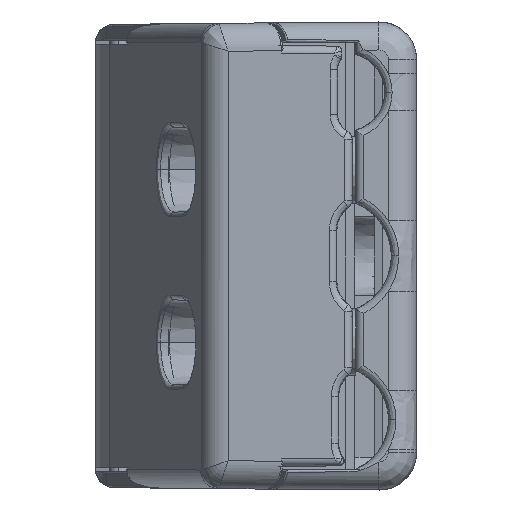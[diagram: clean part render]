
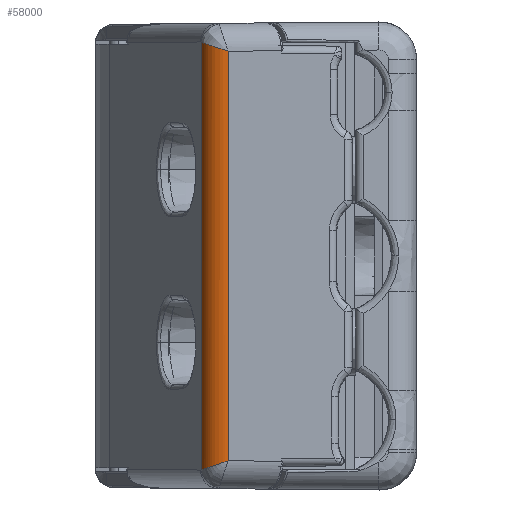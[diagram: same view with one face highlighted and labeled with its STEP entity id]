
A CAD part, left-side view. The second image highlights one B-rep face of the part: STEP entity #58000.
In plain terms, the highlighted cylindrical face has radius 3 mm (diameter 6 mm), a partial arc.
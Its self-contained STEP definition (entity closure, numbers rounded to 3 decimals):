
#173 = VERTEX_POINT ( 'NONE', #96289 ) ;
#403 = EDGE_CURVE ( 'NONE', #173, #39260, #97903, .T. ) ;
#1124 = CARTESIAN_POINT ( 'NONE',  ( -147.773, 23.044, -22.898 ) ) ;
#1449 = CARTESIAN_POINT ( 'NONE',  ( -149.423, 21.859, -22.501 ) ) ;
#1768 = CARTESIAN_POINT ( 'NONE',  ( -149.862, 20.882, -22.177 ) ) ;
#2630 = VECTOR ( 'NONE', #68797, 1000. ) ;
#3416 = CARTESIAN_POINT ( 'NONE',  ( -149.946, 20.187, -25. ) ) ;
#4154 = CARTESIAN_POINT ( 'NONE',  ( -149.86, 20.875, 22.175 ) ) ;
#4197 = ORIENTED_EDGE ( 'NONE', *, *, #403, .T. ) ;
#4464 = CARTESIAN_POINT ( 'NONE',  ( -149.507, 21.725, 22.457 ) ) ;
#4654 = CARTESIAN_POINT ( 'NONE',  ( -149.946, 20.187, -21.947 ) ) ;
#4995 = LINE ( 'NONE', #31043, #2630 ) ;
#7444 = CARTESIAN_POINT ( 'NONE',  ( -146.946, 20.16, -25. ) ) ;
#8792 = CARTESIAN_POINT ( 'NONE',  ( -148.343, 22.835, -22.826 ) ) ;
#9133 = CARTESIAN_POINT ( 'NONE',  ( -149.626, 21.511, -22.386 ) ) ;
#9266 = AXIS2_PLACEMENT_3D ( 'NONE', #7444, #60867, #15166 ) ;
#9476 = CARTESIAN_POINT ( 'NONE',  ( -149.944, 20.394, -22.016 ) ) ;
#11868 = CARTESIAN_POINT ( 'NONE',  ( -149.826, 21., 22.216 ) ) ;
#12182 = CARTESIAN_POINT ( 'NONE',  ( -149.411, 21.871, 22.505 ) ) ;
#15166 = DIRECTION ( 'NONE',  ( -1., 0., 0. ) ) ;
#16486 = CARTESIAN_POINT ( 'NONE',  ( -148.872, 22.466, -22.703 ) ) ;
#16818 = CARTESIAN_POINT ( 'NONE',  ( -149.715, 21.316, -22.321 ) ) ;
#19518 = CARTESIAN_POINT ( 'NONE',  ( -149.807, 21.062, 22.237 ) ) ;
#19745 = CARTESIAN_POINT ( 'NONE',  ( -149.946, 20.187, 21.947 ) ) ;
#19844 = CARTESIAN_POINT ( 'NONE',  ( -149.356, 21.947, 22.53 ) ) ;
#24118 = CARTESIAN_POINT ( 'NONE',  ( -149.113, 22.236, -22.627 ) ) ;
#24448 = CARTESIAN_POINT ( 'NONE',  ( -149.767, 21.182, -22.276 ) ) ;
#26248 = EDGE_CURVE ( 'NONE', #58326, #93010, #76870, .T. ) ;
#27153 = CARTESIAN_POINT ( 'NONE',  ( -149.796, 21.096, 22.248 ) ) ;
#27473 = CARTESIAN_POINT ( 'NONE',  ( -149.34, 21.968, 22.537 ) ) ;
#31043 = CARTESIAN_POINT ( 'NONE',  ( -147.773, 23.044, -25. ) ) ;
#31757 = CARTESIAN_POINT ( 'NONE',  ( -149.24, 22.094, -22.579 ) ) ;
#32110 = CARTESIAN_POINT ( 'NONE',  ( -149.786, 21.126, -22.258 ) ) ;
#34837 = CARTESIAN_POINT ( 'NONE',  ( -149.794, 21.104, 22.251 ) ) ;
#35152 = CARTESIAN_POINT ( 'NONE',  ( -148.877, 22.479, 22.707 ) ) ;
#35366 = ORIENTED_EDGE ( 'NONE', *, *, #26248, .T. ) ;
#39260 = VERTEX_POINT ( 'NONE', #4654 ) ;
#39453 = CARTESIAN_POINT ( 'NONE',  ( -149.307, 22.01, -22.552 ) ) ;
#39688 = EDGE_LOOP ( 'NONE', ( #98383, #4197, #83657, #35366 ) ) ;
#39786 = CARTESIAN_POINT ( 'NONE',  ( -149.791, 21.112, -22.253 ) ) ;
#42173 = CARTESIAN_POINT ( 'NONE',  ( -149.946, 20.187, 21.947 ) ) ;
#42512 = CARTESIAN_POINT ( 'NONE',  ( -149.735, 21.28, 22.309 ) ) ;
#42840 = CARTESIAN_POINT ( 'NONE',  ( -148.058, 22.962, 22.87 ) ) ;
#47150 = CARTESIAN_POINT ( 'NONE',  ( -149.328, 21.984, -22.543 ) ) ;
#47478 = CARTESIAN_POINT ( 'NONE',  ( -149.825, 21.008, -22.219 ) ) ;
#49886 = CARTESIAN_POINT ( 'NONE',  ( -149.877, 20.806, 22.152 ) ) ;
#50204 = CARTESIAN_POINT ( 'NONE',  ( -149.548, 21.656, 22.434 ) ) ;
#54493 = CARTESIAN_POINT ( 'NONE',  ( -148.058, 22.962, -22.87 ) ) ;
#54835 = CARTESIAN_POINT ( 'NONE',  ( -149.509, 21.729, -22.458 ) ) ;
#55170 = CARTESIAN_POINT ( 'NONE',  ( -149.921, 20.576, -22.076 ) ) ;
#56821 = DIRECTION ( 'NONE',  ( 0., 0., 1. ) ) ;
#57418 = CYLINDRICAL_SURFACE ( 'NONE', #9266, 3. ) ;
#57567 = CARTESIAN_POINT ( 'NONE',  ( -149.835, 20.97, 22.206 ) ) ;
#57889 = CARTESIAN_POINT ( 'NONE',  ( -149.443, 21.823, 22.489 ) ) ;
#58000 = ADVANCED_FACE ( 'NONE', ( #62189 ), #57418, .T. ) ;
#58326 = VERTEX_POINT ( 'NONE', #19745 ) ;
#60867 = DIRECTION ( 'NONE',  ( 0., 0., -1. ) ) ;
#62189 = FACE_OUTER_BOUND ( 'NONE', #39688, .T. ) ;
#62196 = CARTESIAN_POINT ( 'NONE',  ( -148.743, 22.568, -22.737 ) ) ;
#62515 = CARTESIAN_POINT ( 'NONE',  ( -149.663, 21.435, -22.36 ) ) ;
#62845 = CARTESIAN_POINT ( 'NONE',  ( -149.946, 20.187, -21.947 ) ) ;
#65232 = CARTESIAN_POINT ( 'NONE',  ( -149.813, 21.042, 22.23 ) ) ;
#65556 = CARTESIAN_POINT ( 'NONE',  ( -149.373, 21.924, 22.523 ) ) ;
#68371 = EDGE_CURVE ( 'NONE', #93010, #173, #4995, .T. ) ;
#68797 = DIRECTION ( 'NONE',  ( 0., 0., -1. ) ) ;
#69855 = CARTESIAN_POINT ( 'NONE',  ( -149.054, 22.296, -22.646 ) ) ;
#70055 = LINE ( 'NONE', #3416, #95157 ) ;
#70188 = CARTESIAN_POINT ( 'NONE',  ( -149.74, 21.255, -22.301 ) ) ;
#72564 = CARTESIAN_POINT ( 'NONE',  ( -149.944, 20.394, 22.016 ) ) ;
#72900 = CARTESIAN_POINT ( 'NONE',  ( -149.8, 21.085, 22.244 ) ) ;
#73206 = CARTESIAN_POINT ( 'NONE',  ( -149.345, 21.962, 22.535 ) ) ;
#75585 = CARTESIAN_POINT ( 'NONE',  ( -147.773, 23.044, 22.898 ) ) ;
#76870 = B_SPLINE_CURVE_WITH_KNOTS ( 'NONE', 3,
 ( #42173, #72564, #87918, #49886, #4154, #57567, #11868, #65232, #19518, #72900, #27153, #80549, #34837, #88247, #42512, #95923, #50204, #4464, #57889, #12182, #65556, #19844, #73206, #27473, #80865, #35152, #88565, #42840, #96259 ),
 .UNSPECIFIED., .F., .F.,
 ( 4, 2, 2, 2, 1, 1, 1, 2, 2, 2, 2, 1, 1, 2, 2, 2, 4 ),
 ( 0., 0.125, 0.187, 0.219, 0.234, 0.242, 0.246, 0.248, 0.25, 0.375, 0.437, 0.469, 0.484, 0.492, 0.5, 0.75, 1. ),
 .UNSPECIFIED. ) ;
#77539 = CARTESIAN_POINT ( 'NONE',  ( -149.199, 22.142, -22.595 ) ) ;
#77868 = CARTESIAN_POINT ( 'NONE',  ( -149.78, 21.145, -22.264 ) ) ;
#80549 = CARTESIAN_POINT ( 'NONE',  ( -149.795, 21.101, 22.25 ) ) ;
#80865 = CARTESIAN_POINT ( 'NONE',  ( -149.125, 22.251, 22.632 ) ) ;
#83657 = ORIENTED_EDGE ( 'NONE', *, *, #97757, .T. ) ;
#85161 = CARTESIAN_POINT ( 'NONE',  ( -149.288, 22.036, -22.56 ) ) ;
#85485 = CARTESIAN_POINT ( 'NONE',  ( -149.789, 21.118, -22.255 ) ) ;
#87918 = CARTESIAN_POINT ( 'NONE',  ( -149.921, 20.576, 22.076 ) ) ;
#88247 = CARTESIAN_POINT ( 'NONE',  ( -149.793, 21.104, 22.251 ) ) ;
#88565 = CARTESIAN_POINT ( 'NONE',  ( -148.343, 22.835, 22.826 ) ) ;
#92867 = CARTESIAN_POINT ( 'NONE',  ( -149.321, 21.993, -22.546 ) ) ;
#93010 = VERTEX_POINT ( 'NONE', #75585 ) ;
#93214 = CARTESIAN_POINT ( 'NONE',  ( -149.792, 21.108, -22.252 ) ) ;
#95157 = VECTOR ( 'NONE', #56821, 1000. ) ;
#95923 = CARTESIAN_POINT ( 'NONE',  ( -149.665, 21.439, 22.362 ) ) ;
#96259 = CARTESIAN_POINT ( 'NONE',  ( -147.773, 23.044, 22.898 ) ) ;
#96289 = CARTESIAN_POINT ( 'NONE',  ( -147.773, 23.044, -22.898 ) ) ;
#97757 = EDGE_CURVE ( 'NONE', #39260, #58326, #70055, .T. ) ;
#97903 = B_SPLINE_CURVE_WITH_KNOTS ( 'NONE', 3,
 ( #1124, #54493, #8792, #62196, #16486, #69855, #24118, #77539, #31757, #85161, #39453, #92867, #47150, #1449, #54835, #9133, #62515, #16818, #70188, #24448, #77868, #32110, #85485, #39786, #93214, #47478, #1768, #55170, #9476, #62845 ),
 .UNSPECIFIED., .F., .F.,
 ( 4, 2, 2, 2, 1, 1, 2, 2, 2, 2, 1, 1, 1, 1, 2, 2, 2, 4 ),
 ( 0., 0.25, 0.375, 0.438, 0.469, 0.484, 0.492, 0.5, 0.625, 0.688, 0.719, 0.734, 0.742, 0.746, 0.748, 0.75, 0.875, 1. ),
 .UNSPECIFIED. ) ;
#98383 = ORIENTED_EDGE ( 'NONE', *, *, #68371, .T. ) ;
